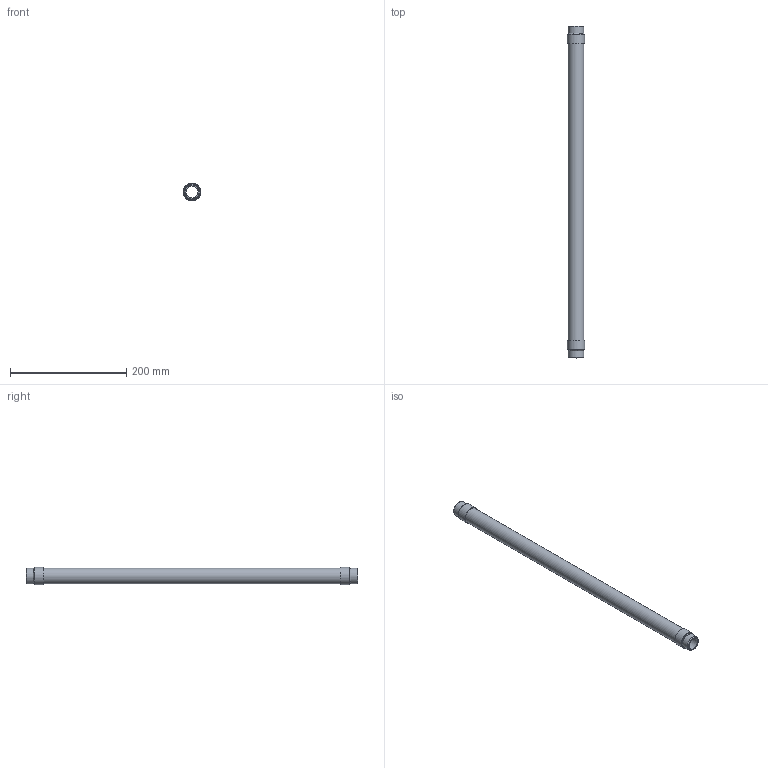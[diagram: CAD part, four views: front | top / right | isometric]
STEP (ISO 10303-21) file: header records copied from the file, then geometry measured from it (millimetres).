
FILE_DESCRIPTION(/* description */ (''),/* implementation_level */ '2;1');
FILE_NAME(/* name */ 'C:\001_Work\Designs\CSAWN\CSAWN-0.75x22.5.stp',/* time_stamp */ '2016-06-04T16:25:35-04:00',/* author */ ('rramoutar'),/* organization */ ('Mason Industries Inc.'),/* preprocessor_version */ 'ST-DEVELOPER v15.6',/* originating_system */ 'Autodesk Inventor 2015',/* authorisation */ '');
FILE_SCHEMA (('CONFIG_CONTROL_DESIGN'));
Length unit declared in the file: inch
Products named in the file (1): CSAWN-0.75x22.5
Bounding box: 29.92 x 571.5 x 29.92 mm (x, y, z)
Volume: 23650.1 mm3; surface area: 103648.5 mm2
Topology: 5 solids, 5 shells, 24 faces, 40 edges, 26 vertices
Faces by surface type: cylinder 10, plane 10, cone 4
Full cylindrical faces by diameter (mm): 20.93 x2, 26.67 x3, 27.28 x1, 27.534 x2, 29.921 x2
Entity records: 564 total; most frequent: DIRECTION 98, CARTESIAN_POINT 73, AXIS2_PLACEMENT_3D 49, EDGE_LOOP 48, ORIENTED_EDGE 48, STYLED_ITEM 29, FACE_BOUND 24, FACE_OUTER_BOUND 24
